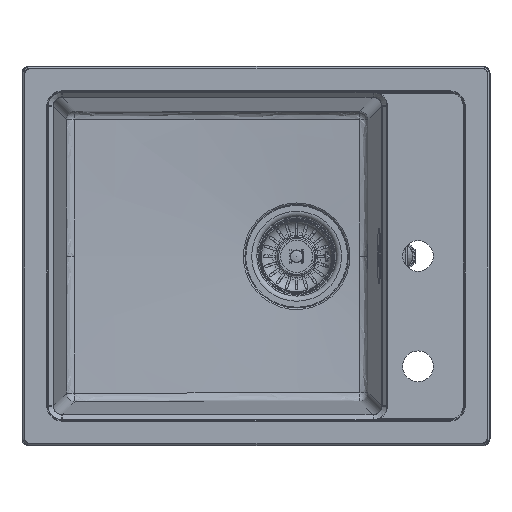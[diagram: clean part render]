
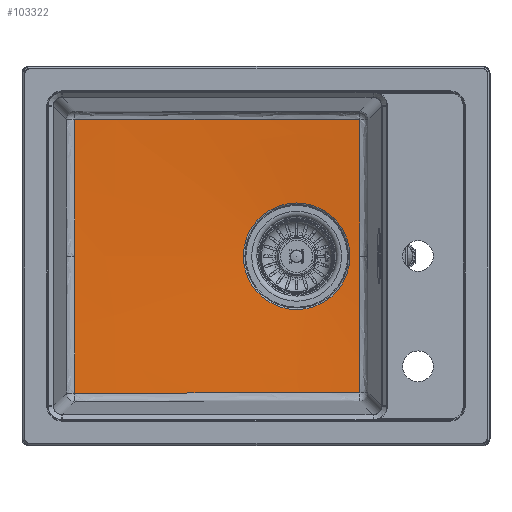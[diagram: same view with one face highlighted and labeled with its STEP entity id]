
A CAD part, top view. The second image highlights one B-rep face of the part: STEP entity #103322.
In plain terms, the highlighted conical face has half-angle 87 degrees and reference radius 269.25 mm.
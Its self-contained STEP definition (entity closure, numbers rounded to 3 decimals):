
#166=CONICAL_SURFACE('',#109828,269.25,87.);
#4364=B_SPLINE_CURVE_WITH_KNOTS('',3,(#175483,#175484,#175485,#175486,#175487,
#175488,#175489,#175490),.UNSPECIFIED.,.F.,.F.,(4,1,1,1,1,4),(3.572,
8.176,12.781,19.687,21.989,35.801),
 .UNSPECIFIED.);
#4365=B_SPLINE_CURVE_WITH_KNOTS('',3,(#175492,#175493,#175494,#175495,#175496,
#175497),.UNSPECIFIED.,.F.,.F.,(4,1,1,4),(1.,5.411,
9.822,16.439),.UNSPECIFIED.);
#4366=B_SPLINE_CURVE_WITH_KNOTS('',3,(#175499,#175500,#175501,#175502,#175503,
#175504),.UNSPECIFIED.,.F.,.F.,(4,1,1,4),(1.,5.411,
9.822,16.439),.UNSPECIFIED.);
#4367=B_SPLINE_CURVE_WITH_KNOTS('',3,(#175506,#175507,#175508,#175509,#175510,
#175511,#175512,#175513),.UNSPECIFIED.,.F.,.F.,(4,1,1,1,1,4),(3.572,
8.176,12.781,19.687,21.989,35.801),
 .UNSPECIFIED.);
#4368=B_SPLINE_CURVE_WITH_KNOTS('',3,(#175515,#175516,#175517,#175518,#175519),
 .UNSPECIFIED.,.F.,.F.,(4,1,4),(3.515,12.366,19.004),
 .UNSPECIFIED.);
#4369=B_SPLINE_CURVE_WITH_KNOTS('',3,(#175520,#175521,#175522,#175523,#175524),
 .UNSPECIFIED.,.F.,.F.,(4,1,4),(3.515,12.366,19.004),
 .UNSPECIFIED.);
#7201=FACE_BOUND('',#19458,.T.);
#8771=CIRCLE('',#109827,60.395);
#13457=FACE_OUTER_BOUND('',#19457,.T.);
#19457=EDGE_LOOP('',(#78217,#78218,#78219,#78220,#78221,#78222));
#19458=EDGE_LOOP('',(#78223));
#43204=VERTEX_POINT('',#175478);
#43205=VERTEX_POINT('',#175481);
#43206=VERTEX_POINT('',#175482);
#43207=VERTEX_POINT('',#175491);
#43208=VERTEX_POINT('',#175498);
#43209=VERTEX_POINT('',#175505);
#43210=VERTEX_POINT('',#175514);
#55547=EDGE_CURVE('',#43204,#43204,#8771,.T.);
#55548=EDGE_CURVE('',#43205,#43206,#4364,.T.);
#55549=EDGE_CURVE('',#43207,#43205,#4365,.T.);
#55550=EDGE_CURVE('',#43207,#43208,#4366,.T.);
#55551=EDGE_CURVE('',#43208,#43209,#4367,.T.);
#55552=EDGE_CURVE('',#43209,#43210,#4368,.T.);
#55553=EDGE_CURVE('',#43206,#43210,#4369,.T.);
#78217=ORIENTED_EDGE('',*,*,#55548,.F.);
#78218=ORIENTED_EDGE('',*,*,#55549,.F.);
#78219=ORIENTED_EDGE('',*,*,#55550,.T.);
#78220=ORIENTED_EDGE('',*,*,#55551,.T.);
#78221=ORIENTED_EDGE('',*,*,#55552,.T.);
#78222=ORIENTED_EDGE('',*,*,#55553,.F.);
#78223=ORIENTED_EDGE('',*,*,#55547,.F.);
#103322=ADVANCED_FACE('',(#13457,#7201),#166,.F.);
#109827=AXIS2_PLACEMENT_3D('',#175479,#126082,#126083);
#109828=AXIS2_PLACEMENT_3D('',#175480,#126084,#126085);
#126082=DIRECTION('center_axis',(0.,0.,
1.));
#126083=DIRECTION('ref_axis',(1.,0.,0.));
#126084=DIRECTION('center_axis',(0.,0.,
1.));
#126085=DIRECTION('ref_axis',(-1.,0.,0.));
#175478=CARTESIAN_POINT('',(-26.395,0.,-191.901));
#175479=CARTESIAN_POINT('Origin',(34.,0.,
-191.901));
#175480=CARTESIAN_POINT('Origin',(34.,0.,
-180.955));
#175481=CARTESIAN_POINT('',(105.508,-154.764,-186.131));
#175482=CARTESIAN_POINT('',(-217.306,-155.136,-179.588));
#175483=CARTESIAN_POINT('Ctrl Pts',(105.508,-154.764,
-186.131));
#175484=CARTESIAN_POINT('Ctrl Pts',(90.126,-154.752,
-186.47));
#175485=CARTESIAN_POINT('Ctrl Pts',(59.344,-154.74,
-186.967));
#175486=CARTESIAN_POINT('Ctrl Pts',(5.438,-154.738,
-187.008));
#175487=CARTESIAN_POINT('Ctrl Pts',(-40.732,-154.76,
-186.149));
#175488=CARTESIAN_POINT('Ctrl Pts',(-117.583,-154.854,
-183.906));
#175489=CARTESIAN_POINT('Ctrl Pts',(-171.289,-154.992,
-181.644));
#175490=CARTESIAN_POINT('Ctrl Pts',(-217.306,-155.136,
-179.588));
#175491=CARTESIAN_POINT('',(105.358,0.,-191.326));
#175492=CARTESIAN_POINT('Ctrl Pts',(105.358,0.,
-191.326));
#175493=CARTESIAN_POINT('Ctrl Pts',(105.358,-14.813,
-191.326));
#175494=CARTESIAN_POINT('Ctrl Pts',(105.325,-44.418,
-190.808));
#175495=CARTESIAN_POINT('Ctrl Pts',(105.348,-95.973,
-188.878));
#175496=CARTESIAN_POINT('Ctrl Pts',(105.442,-132.721,
-187.181));
#175497=CARTESIAN_POINT('Ctrl Pts',(105.508,-154.764,
-186.131));
#175498=CARTESIAN_POINT('',(105.508,154.764,-186.131));
#175499=CARTESIAN_POINT('Ctrl Pts',(105.358,0.,
-191.326));
#175500=CARTESIAN_POINT('Ctrl Pts',(105.358,14.813,-191.326));
#175501=CARTESIAN_POINT('Ctrl Pts',(105.325,44.418,-190.808));
#175502=CARTESIAN_POINT('Ctrl Pts',(105.348,95.973,-188.878));
#175503=CARTESIAN_POINT('Ctrl Pts',(105.442,132.721,-187.181));
#175504=CARTESIAN_POINT('Ctrl Pts',(105.508,154.764,-186.131));
#175505=CARTESIAN_POINT('',(-217.306,155.136,-179.588));
#175506=CARTESIAN_POINT('Ctrl Pts',(105.508,154.764,-186.131));
#175507=CARTESIAN_POINT('Ctrl Pts',(90.126,154.752,-186.47));
#175508=CARTESIAN_POINT('Ctrl Pts',(59.344,154.74,-186.967));
#175509=CARTESIAN_POINT('Ctrl Pts',(5.438,154.738,-187.008));
#175510=CARTESIAN_POINT('Ctrl Pts',(-40.732,154.76,
-186.149));
#175511=CARTESIAN_POINT('Ctrl Pts',(-117.583,154.854,-183.906));
#175512=CARTESIAN_POINT('Ctrl Pts',(-171.289,154.992,
-181.644));
#175513=CARTESIAN_POINT('Ctrl Pts',(-217.306,155.136,
-179.588));
#175514=CARTESIAN_POINT('',(-217.182,0.,-181.902));
#175515=CARTESIAN_POINT('Ctrl Pts',(-217.306,155.136,
-179.588));
#175516=CARTESIAN_POINT('Ctrl Pts',(-217.259,125.608,-180.403));
#175517=CARTESIAN_POINT('Ctrl Pts',(-217.199,73.908,
-181.536));
#175518=CARTESIAN_POINT('Ctrl Pts',(-217.182,22.172,-181.902));
#175519=CARTESIAN_POINT('Ctrl Pts',(-217.182,0.,
-181.902));
#175520=CARTESIAN_POINT('Ctrl Pts',(-217.306,-155.136,
-179.588));
#175521=CARTESIAN_POINT('Ctrl Pts',(-217.259,-125.608,
-180.403));
#175522=CARTESIAN_POINT('Ctrl Pts',(-217.199,-73.908,
-181.536));
#175523=CARTESIAN_POINT('Ctrl Pts',(-217.182,-22.172,
-181.902));
#175524=CARTESIAN_POINT('Ctrl Pts',(-217.182,0.,
-181.902));
